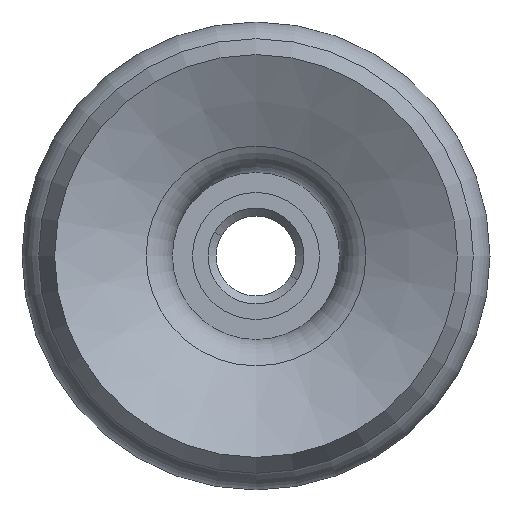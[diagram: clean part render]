
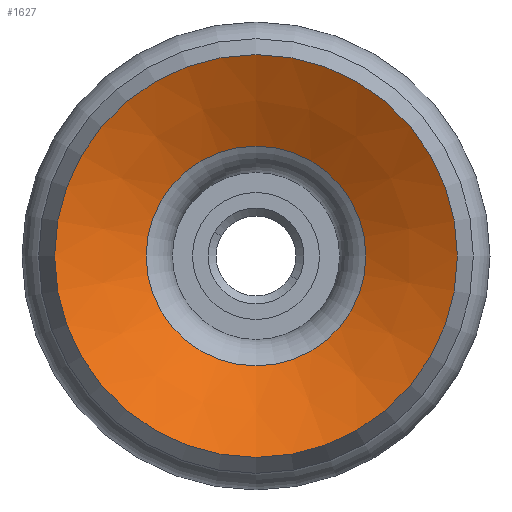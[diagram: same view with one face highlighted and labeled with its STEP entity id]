
A CAD part, front view. The second image highlights one B-rep face of the part: STEP entity #1627.
In plain terms, the highlighted conical face has half-angle 61.596 degrees and reference radius 6.302 mm.
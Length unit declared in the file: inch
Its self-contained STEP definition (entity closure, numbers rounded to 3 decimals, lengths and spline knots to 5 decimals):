
#139 = DIRECTION ( 'NONE',  ( 0., 0., -1. ) ) ;
#204 = DIRECTION ( 'NONE',  ( 0., -1., 0. ) ) ;
#245 = AXIS2_PLACEMENT_3D ( 'NONE', #756, #204, #1388 ) ;
#342 = AXIS2_PLACEMENT_3D ( 'NONE', #868, #1241, #139 ) ;
#505 = VERTEX_POINT ( 'NONE', #1259 ) ;
#515 = DIRECTION ( 'NONE',  ( 0., -1., 0. ) ) ;
#611 = EDGE_CURVE ( 'NONE', #505, #505, #766, .T. ) ;
#614 = VERTEX_POINT ( 'NONE', #763 ) ;
#615 = CIRCLE ( 'NONE', #921, 0.24812 ) ;
#686 = ORIENTED_EDGE ( 'NONE', *, *, #1028, .T. ) ;
#756 = CARTESIAN_POINT ( 'NONE',  ( 0., 0., 0. ) ) ;
#763 = CARTESIAN_POINT ( 'NONE',  ( 0., 0., -0.24812 ) ) ;
#766 = CIRCLE ( 'NONE', #342, 0.13536 ) ;
#779 = EDGE_LOOP ( 'NONE', ( #686 ) ) ;
#786 = EDGE_LOOP ( 'NONE', ( #1614 ) ) ;
#868 = CARTESIAN_POINT ( 'NONE',  ( 0., 0.06098, 0. ) ) ;
#921 = AXIS2_PLACEMENT_3D ( 'NONE', #1045, #515, #2092 ) ;
#995 = FACE_OUTER_BOUND ( 'NONE', #779, .T. ) ;
#1028 = EDGE_CURVE ( 'NONE', #614, #614, #615, .T. ) ;
#1045 = CARTESIAN_POINT ( 'NONE',  ( 0., 0., 0. ) ) ;
#1198 = CONICAL_SURFACE ( 'NONE', #245, 0.24812, 1.075 ) ;
#1241 = DIRECTION ( 'NONE',  ( 0., -1., 0. ) ) ;
#1259 = CARTESIAN_POINT ( 'NONE',  ( 0., 0.06098, -0.13536 ) ) ;
#1388 = DIRECTION ( 'NONE',  ( 0., 0., -1. ) ) ;
#1614 = ORIENTED_EDGE ( 'NONE', *, *, #611, .F. ) ;
#1627 = ADVANCED_FACE ( 'NONE', ( #995, #1886 ), #1198, .F. ) ;
#1886 = FACE_BOUND ( 'NONE', #786, .T. ) ;
#2092 = DIRECTION ( 'NONE',  ( 0., 0., -1. ) ) ;
